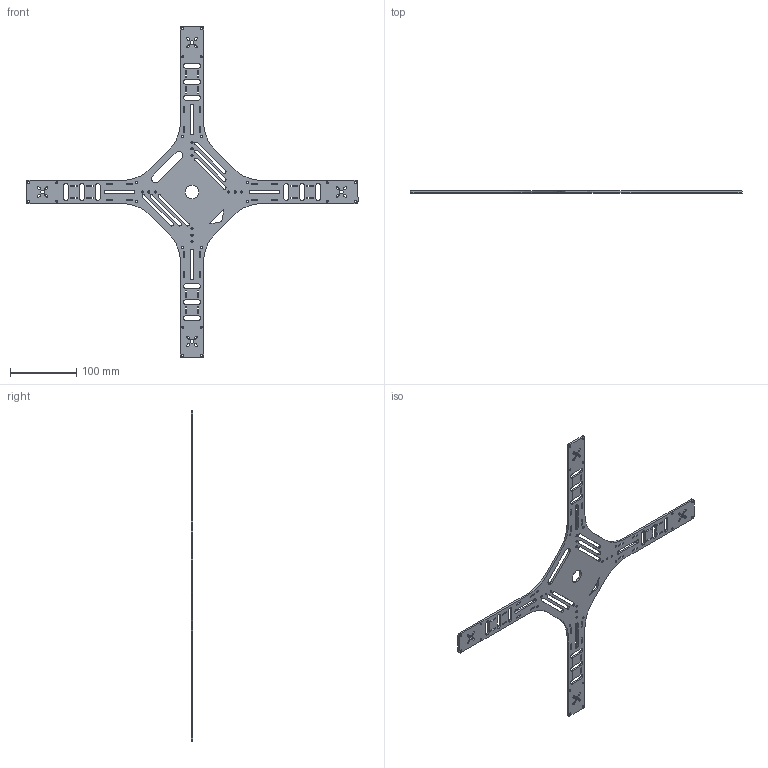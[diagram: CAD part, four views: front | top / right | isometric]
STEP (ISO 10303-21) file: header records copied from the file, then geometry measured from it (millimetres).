
FILE_DESCRIPTION (( 'STEP AP214' ), '1' );
FILE_NAME ('1-1翋啣奻450.STEP', '2026-01-19T13:59:23', ( '' ), ( '' ), 'SwSTEP 2.0', 'SolidWorks 2024', '' );
FILE_SCHEMA (( 'AUTOMOTIVE_DESIGN' ));
Length unit declared in the file: millimetre
Products named in the file (1): 1-1主板上450
Bounding box: 500 x 3 x 500 mm (x, y, z)
Volume: 103799 mm3; surface area: 85530.5 mm2
Topology: 1 solids, 1 shells, 434 faces, 1296 edges, 864 vertices
Faces by surface type: plane 227, cylinder 207
Entity records: 15169 total; most frequent: CARTESIAN_POINT 2595, ORIENTED_EDGE 2592, DIRECTION 2580, EDGE_CURVE 1296, LINE 882, VECTOR 882, VERTEX_POINT 864, AXIS2_PLACEMENT_3D 849
